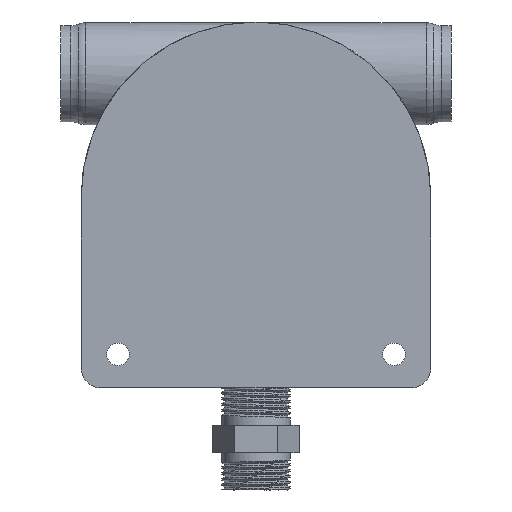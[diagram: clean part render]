
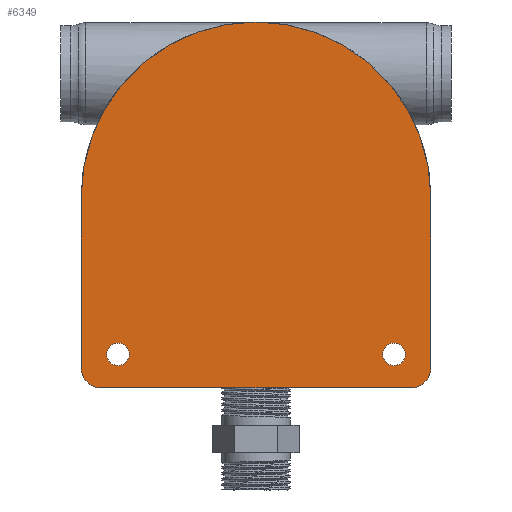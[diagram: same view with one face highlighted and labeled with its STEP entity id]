
A CAD part, front view. The second image highlights one B-rep face of the part: STEP entity #6349.
In plain terms, the highlighted planar face has unit normal (0, -1, 0).
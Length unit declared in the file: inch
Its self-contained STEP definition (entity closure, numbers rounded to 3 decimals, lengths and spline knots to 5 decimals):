
#18 = AXIS2_PLACEMENT_3D ( 'NONE', #289, #5606, #2430 ) ;
#39 = DIRECTION ( 'NONE',  ( 0., 0., -1. ) ) ;
#78 = ORIENTED_EDGE ( 'NONE', *, *, #3515, .T. ) ;
#125 = CARTESIAN_POINT ( 'NONE',  ( 2.03, -0.5, -2.31555 ) ) ;
#181 = CIRCLE ( 'NONE', #8488, 0.166 ) ;
#246 = AXIS2_PLACEMENT_3D ( 'NONE', #125, #6054, #5355 ) ;
#286 = DIRECTION ( 'NONE',  ( 0., -1., 0. ) ) ;
#289 = CARTESIAN_POINT ( 'NONE',  ( -2.27, -0.5, -2.51 ) ) ;
#339 = DIRECTION ( 'NONE',  ( 0., 0., -1. ) ) ;
#372 = CARTESIAN_POINT ( 'NONE',  ( -2.03, -0.5, -2.31555 ) ) ;
#425 = CARTESIAN_POINT ( 'NONE',  ( 2.57, -0.5, -2.51 ) ) ;
#445 = ORIENTED_EDGE ( 'NONE', *, *, #648, .T. ) ;
#457 = DIRECTION ( 'NONE',  ( 0., 0., -1. ) ) ;
#463 = AXIS2_PLACEMENT_3D ( 'NONE', #372, #286, #2987 ) ;
#507 = LINE ( 'NONE', #4506, #534 ) ;
#534 = VECTOR ( 'NONE', #7191, 39.37008 ) ;
#648 = EDGE_CURVE ( 'NONE', #8491, #2550, #6877, .T. ) ;
#837 = FACE_OUTER_BOUND ( 'NONE', #1685, .T. ) ;
#1006 = CIRCLE ( 'NONE', #8534, 0.166 ) ;
#1243 = CARTESIAN_POINT ( 'NONE',  ( -2.03, -0.5, -2.48155 ) ) ;
#1276 = AXIS2_PLACEMENT_3D ( 'NONE', #3878, #5883, #7245 ) ;
#1418 = CARTESIAN_POINT ( 'NONE',  ( -2.03, -0.5, -2.14955 ) ) ;
#1524 = VERTEX_POINT ( 'NONE', #7015 ) ;
#1546 = EDGE_CURVE ( 'NONE', #1524, #8491, #6004, .T. ) ;
#1625 = PLANE ( 'NONE',  #3521 ) ;
#1685 = EDGE_LOOP ( 'NONE', ( #4338, #4246, #445, #78, #3257, #2823, #2769 ) ) ;
#1712 = CIRCLE ( 'NONE', #463, 0.166 ) ;
#1777 = VERTEX_POINT ( 'NONE', #6746 ) ;
#1790 = DIRECTION ( 'NONE',  ( 0., 0., -1. ) ) ;
#1905 = EDGE_CURVE ( 'NONE', #7823, #1777, #3914, .T. ) ;
#2043 = ORIENTED_EDGE ( 'NONE', *, *, #3145, .F. ) ;
#2193 = CIRCLE ( 'NONE', #246, 0.166 ) ;
#2423 = CARTESIAN_POINT ( 'NONE',  ( 0., -0.5, 0. ) ) ;
#2430 = DIRECTION ( 'NONE',  ( 0., 0., -1. ) ) ;
#2550 = VERTEX_POINT ( 'NONE', #5708 ) ;
#2571 = VERTEX_POINT ( 'NONE', #3571 ) ;
#2769 = ORIENTED_EDGE ( 'NONE', *, *, #7130, .T. ) ;
#2823 = ORIENTED_EDGE ( 'NONE', *, *, #1905, .T. ) ;
#2891 = CARTESIAN_POINT ( 'NONE',  ( 0., -0.5, 0. ) ) ;
#2987 = DIRECTION ( 'NONE',  ( 0., 0., -1. ) ) ;
#3145 = EDGE_CURVE ( 'NONE', #8597, #6111, #181, .T. ) ;
#3233 = EDGE_CURVE ( 'NONE', #4381, #7823, #507, .T. ) ;
#3257 = ORIENTED_EDGE ( 'NONE', *, *, #3233, .T. ) ;
#3303 = DIRECTION ( 'NONE',  ( 0., 0., -1. ) ) ;
#3332 = AXIS2_PLACEMENT_3D ( 'NONE', #2423, #7133, #457 ) ;
#3515 = EDGE_CURVE ( 'NONE', #2550, #4381, #7654, .T. ) ;
#3521 = AXIS2_PLACEMENT_3D ( 'NONE', #2891, #4232, #4274 ) ;
#3571 = CARTESIAN_POINT ( 'NONE',  ( -2.57, -0.5, 0. ) ) ;
#3626 = FACE_BOUND ( 'NONE', #7550, .T. ) ;
#3635 = CARTESIAN_POINT ( 'NONE',  ( -2.27, -0.5, -2.81 ) ) ;
#3744 = ORIENTED_EDGE ( 'NONE', *, *, #5996, .F. ) ;
#3878 = CARTESIAN_POINT ( 'NONE',  ( 0., -0.5, 0. ) ) ;
#3911 = VERTEX_POINT ( 'NONE', #5621 ) ;
#3914 = CIRCLE ( 'NONE', #1276, 2.57 ) ;
#4014 = AXIS2_PLACEMENT_3D ( 'NONE', #4397, #7782, #1790 ) ;
#4133 = EDGE_CURVE ( 'NONE', #3911, #5067, #2193, .T. ) ;
#4232 = DIRECTION ( 'NONE',  ( 0., -1., 0. ) ) ;
#4243 = DIRECTION ( 'NONE',  ( 1., 0., 0. ) ) ;
#4246 = ORIENTED_EDGE ( 'NONE', *, *, #1546, .T. ) ;
#4274 = DIRECTION ( 'NONE',  ( 0., 0., -1. ) ) ;
#4338 = ORIENTED_EDGE ( 'NONE', *, *, #5357, .T. ) ;
#4345 = VECTOR ( 'NONE', #39, 39.37008 ) ;
#4381 = VERTEX_POINT ( 'NONE', #425 ) ;
#4397 = CARTESIAN_POINT ( 'NONE',  ( 2.27, -0.5, -2.51 ) ) ;
#4506 = CARTESIAN_POINT ( 'NONE',  ( 2.57, -0.5, -2.81 ) ) ;
#4621 = EDGE_LOOP ( 'NONE', ( #6196, #7446 ) ) ;
#4860 = CIRCLE ( 'NONE', #3332, 2.57 ) ;
#4969 = FACE_BOUND ( 'NONE', #4621, .T. ) ;
#5067 = VERTEX_POINT ( 'NONE', #5629 ) ;
#5149 = EDGE_CURVE ( 'NONE', #5067, #3911, #1006, .T. ) ;
#5355 = DIRECTION ( 'NONE',  ( 0., 0., -1. ) ) ;
#5357 = EDGE_CURVE ( 'NONE', #2571, #1524, #7549, .T. ) ;
#5504 = CARTESIAN_POINT ( 'NONE',  ( 2.57, -0.5, 0. ) ) ;
#5562 = DIRECTION ( 'NONE',  ( 0., -1., 0. ) ) ;
#5606 = DIRECTION ( 'NONE',  ( 0., -1., 0. ) ) ;
#5621 = CARTESIAN_POINT ( 'NONE',  ( 2.03, -0.5, -2.48155 ) ) ;
#5629 = CARTESIAN_POINT ( 'NONE',  ( 2.03, -0.5, -2.14955 ) ) ;
#5702 = VECTOR ( 'NONE', #4243, 39.37008 ) ;
#5708 = CARTESIAN_POINT ( 'NONE',  ( 2.27, -0.5, -2.81 ) ) ;
#5883 = DIRECTION ( 'NONE',  ( 0., -1., 0. ) ) ;
#5996 = EDGE_CURVE ( 'NONE', #6111, #8597, #1712, .T. ) ;
#6004 = CIRCLE ( 'NONE', #18, 0.3 ) ;
#6054 = DIRECTION ( 'NONE',  ( 0., -1., 0. ) ) ;
#6111 = VERTEX_POINT ( 'NONE', #1418 ) ;
#6196 = ORIENTED_EDGE ( 'NONE', *, *, #5149, .F. ) ;
#6349 = ADVANCED_FACE ( 'NONE', ( #3626, #4969, #837 ), #1625, .T. ) ;
#6375 = CARTESIAN_POINT ( 'NONE',  ( 2.03, -0.5, -2.31555 ) ) ;
#6389 = CARTESIAN_POINT ( 'NONE',  ( -2.57, -0.5, -2.81 ) ) ;
#6636 = DIRECTION ( 'NONE',  ( 0., -1., 0. ) ) ;
#6677 = CARTESIAN_POINT ( 'NONE',  ( -2.57, -0.5, 0. ) ) ;
#6746 = CARTESIAN_POINT ( 'NONE',  ( 0., -0.5, 2.57 ) ) ;
#6877 = LINE ( 'NONE', #6389, #5702 ) ;
#7015 = CARTESIAN_POINT ( 'NONE',  ( -2.57, -0.5, -2.51 ) ) ;
#7130 = EDGE_CURVE ( 'NONE', #1777, #2571, #4860, .T. ) ;
#7133 = DIRECTION ( 'NONE',  ( 0., -1., 0. ) ) ;
#7191 = DIRECTION ( 'NONE',  ( 0., 0., 1. ) ) ;
#7245 = DIRECTION ( 'NONE',  ( 0., 0., -1. ) ) ;
#7446 = ORIENTED_EDGE ( 'NONE', *, *, #4133, .F. ) ;
#7549 = LINE ( 'NONE', #6677, #4345 ) ;
#7550 = EDGE_LOOP ( 'NONE', ( #3744, #2043 ) ) ;
#7654 = CIRCLE ( 'NONE', #4014, 0.3 ) ;
#7782 = DIRECTION ( 'NONE',  ( 0., -1., 0. ) ) ;
#7823 = VERTEX_POINT ( 'NONE', #5504 ) ;
#8197 = CARTESIAN_POINT ( 'NONE',  ( -2.03, -0.5, -2.31555 ) ) ;
#8488 = AXIS2_PLACEMENT_3D ( 'NONE', #8197, #5562, #339 ) ;
#8491 = VERTEX_POINT ( 'NONE', #3635 ) ;
#8534 = AXIS2_PLACEMENT_3D ( 'NONE', #6375, #6636, #3303 ) ;
#8597 = VERTEX_POINT ( 'NONE', #1243 ) ;
